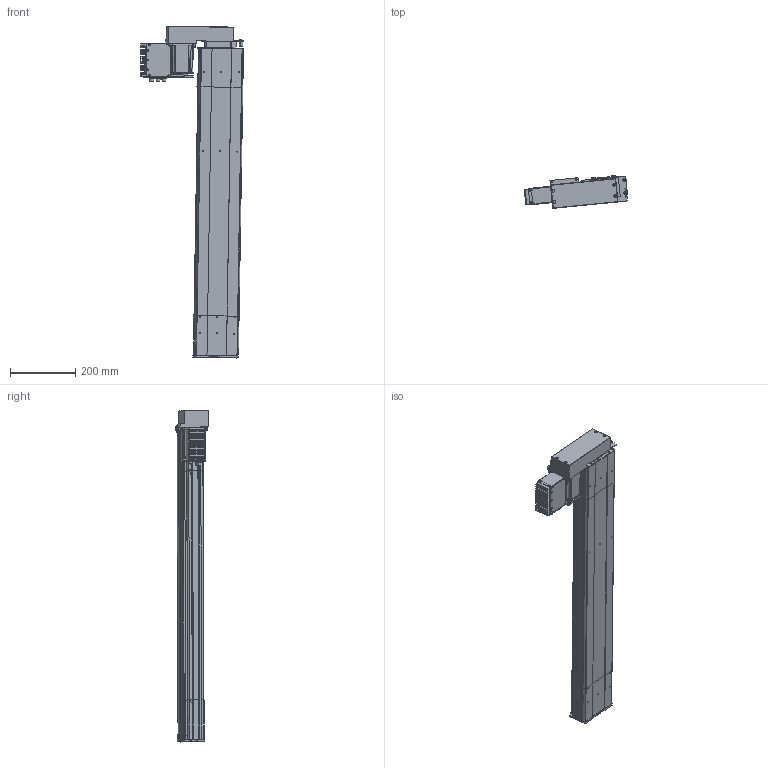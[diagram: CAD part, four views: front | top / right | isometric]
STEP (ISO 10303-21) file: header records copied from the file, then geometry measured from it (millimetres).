
FILE_DESCRIPTION (( 'STEP AP203' ), '1' );
FILE_NAME ('D14 TSH M4 BR L10 S700.STEP', '2012-10-10T13:55:17', ( '' ), ( '' ), 'SwSTEP 2.0', 'SolidWorks 2010', '' );
FILE_SCHEMA (( 'CONFIG_CONTROL_DESIGN' ));
Length unit declared in the file: millimetre
Products named in the file (27): Moteur_2; corpl tail D14_Default_2; Tôle Arrière_2; Tôle latérale_2; Couvercle_2; Vis TF 3 torkx_2; plaque de  bout tail D14_Default_2; plaque de maintient D14; Vis CHC M8; vis CHC M7; D14 TSH M4 BR L10 S700; corp head D14_Default_2; plaque de  bout head D14 MD_Default_2; T犨e contre le moteur_2; Sub D 9cts_2; T犨e fond_2; Connecteur rond D10 3cts_2; Connecteur rond D12 4cts_2; Moteur 70BLDC90A_2; Colonnette_2; Radiateur_2; couvercle D14 head_Default_2; Pièce702; Pièce700; Embout raccord d14; plaque de bout head d14 BR; vis CHC M5.5
Assembly tree (59 placements, depth 3):
  D14 TSH M4 BR L10 S700
    plaque de  bout head D14 MD_Default_2
    Pièce702
    Embout raccord d14
      vis CHC M5.5  x4
      plaque de maintient D14
      Vis CHC M8  x2
      vis CHC M7  x2
      plaque de bout head d14 BR
    Pièce700
    plaque de  bout tail D14_Default_2
    corp head D14_Default_2
    Moteur_2
      Tôle Arrière_2
      Connecteur rond D12 4cts_2
      Vis TF 3 torkx_2  x26
      Tôle latérale_2  x2
      Couvercle_2
      Sub D 9cts_2
      Colonnette_2
      Connecteur rond D10 3cts_2  x2
      T犨e fond_2
      Radiateur_2
      Moteur 70BLDC90A_2
      T犨e contre le moteur_2
    couvercle D14 head_Default_2  x2
    corpl tail D14_Default_2
Bounding box: 316.32 x 100.45 x 1015.84 mm (x, y, z)
Volume: 3981964.2 mm3; surface area: 1209039 mm2
Topology: 79 solids, 79 shells, 2575 faces, 6652 edges, 4377 vertices
Faces by surface type: plane 1388, cylinder 891, cone 150, bspline 130, torus 16
Entity records: 67439 total; most frequent: CARTESIAN_POINT 21211, ORIENTED_EDGE 8882, DIRECTION 8584, EDGE_CURVE 4441, LINE 2952, VECTOR 2952, VERTEX_POINT 2931, AXIS2_PLACEMENT_3D 2816
